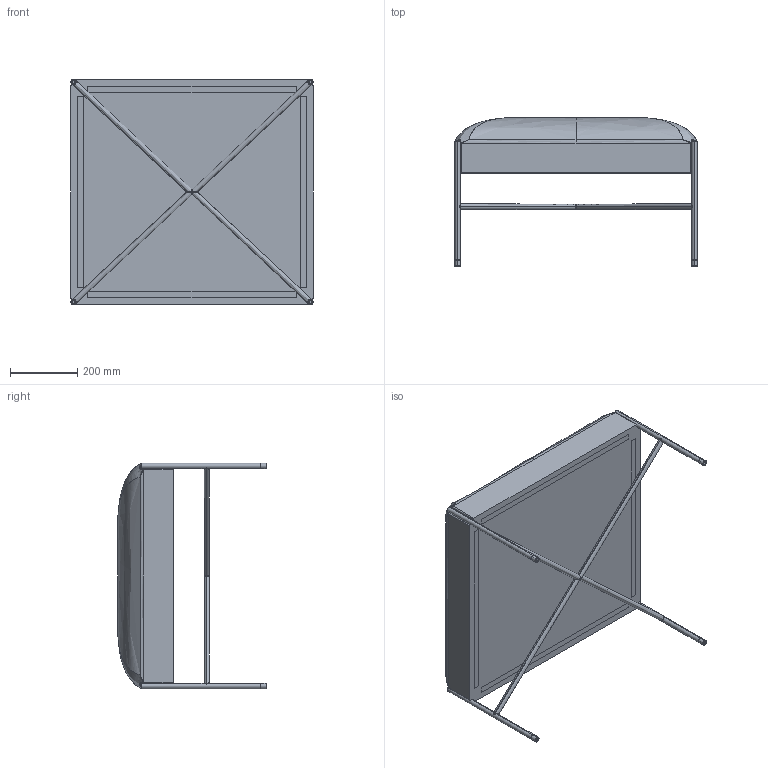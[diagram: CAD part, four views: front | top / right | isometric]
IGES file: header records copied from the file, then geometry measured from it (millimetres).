
Start section: SolidWorks IGES file using analytic representation for surfaces
Global section: file name: W:\design\GORDON GUILLAUMIER\Chill-Out\modelli 3d aggiornati\poltrona I.IGS; native system: SolidWorks 2010; preprocessor: SolidWorks 2010; author: PC20; date: 140714.191146; units: millimetre
Bounding box: 720 x 442 x 670 mm (x, y, z)
Surface area: 3415145 mm2 (no closed solid volume)
Topology: 0 solids, 0 shells, 424 faces, 11611 edges, 13652 vertices
Faces by surface type: bspline 244, revolution 180
